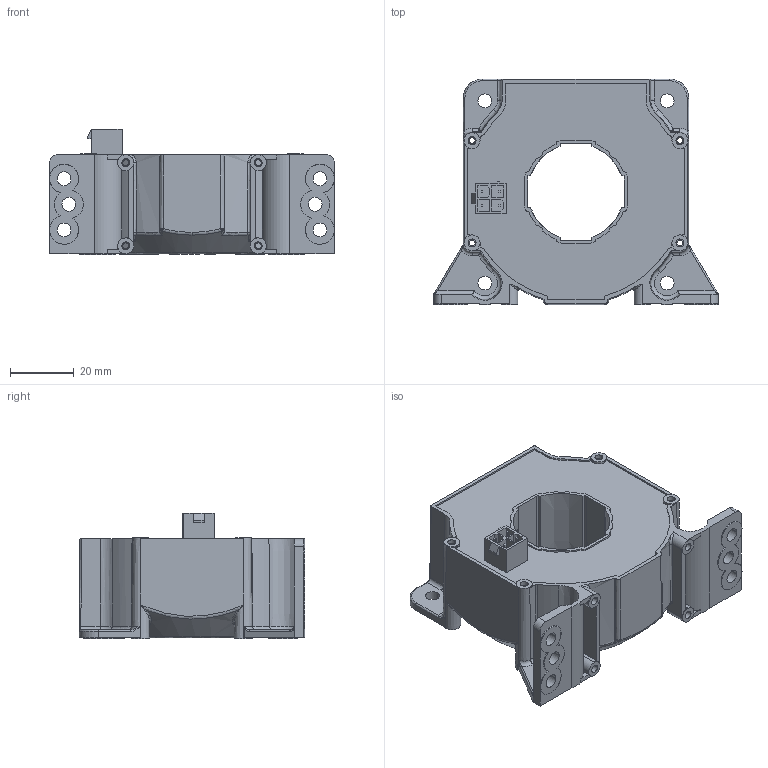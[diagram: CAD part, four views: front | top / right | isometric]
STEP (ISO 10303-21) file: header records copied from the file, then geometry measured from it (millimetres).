
FILE_DESCRIPTION(('Creo Elements/Direct Modeling STEP Export'),'2;1');
FILE_NAME('111.stp','2019-02-02T 9:21:14',(''),(''),'Creo Elements/Direct Modeling STEP processor for AP214 (Solid Model)','Creo Elements/Direct Modeling 20.1 10-Mar-2018 (C) Parametric Technology GmbH','');
FILE_SCHEMA(('AUTOMOTIVE_DESIGN { 1 0 10303 214 1 1 1 1 }'));
Products named in the file (1): LF-505-S-SP39
Bounding box: 89 x 70.57 x 39.3 mm (x, y, z)
Volume: 104410 mm3; surface area: 25200.1 mm2
Topology: 1 solids, 1 shells, 1046 faces, 2860 edges, 1866 vertices
Faces by surface type: plane 691, bspline 144, cylinder 118, cone 60, extrusion 17, torus 16
Entity records: 56474 total; most frequent: CARTESIAN_POINT 31155, ORIENTED_EDGE 5700, DIRECTION 4124, EDGE_CURVE 2850, VECTOR 1882, VERTEX_POINT 1866, LINE 1865, EDGE_LOOP 1136
